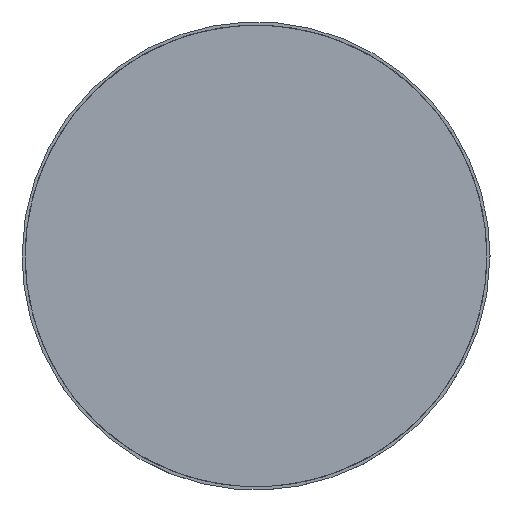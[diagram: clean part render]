
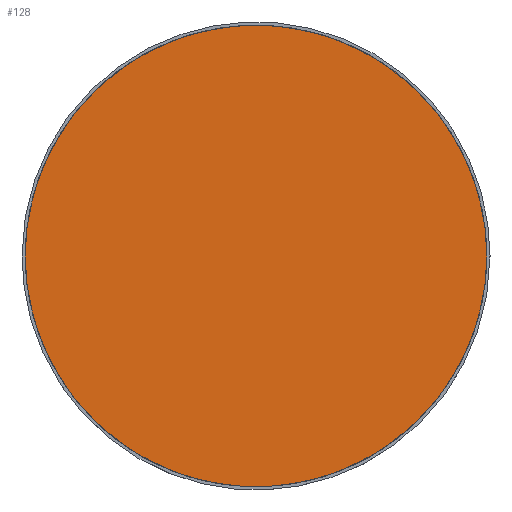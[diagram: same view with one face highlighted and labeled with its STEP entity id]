
A CAD part, top view. The second image highlights one B-rep face of the part: STEP entity #128.
In plain terms, the highlighted planar face has unit normal (0, 0, 1).
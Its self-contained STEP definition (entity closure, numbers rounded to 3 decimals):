
#128=ADVANCED_FACE('',(#202),#981,.T.);
#202=FACE_OUTER_BOUND('',#278,.T.);
#278=EDGE_LOOP('',(#373,#374));
#373=ORIENTED_EDGE('',*,*,#669,.F.);
#374=ORIENTED_EDGE('',*,*,#665,.F.);
#665=EDGE_CURVE('',#889,#891,#819,.T.);
#669=EDGE_CURVE('',#891,#889,#823,.T.);
#819=(
BOUNDED_CURVE()
B_SPLINE_CURVE(2,(#1253,#1254,#1255,#1256,#1257),.UNSPECIFIED.,.F.,.F.)
B_SPLINE_CURVE_WITH_KNOTS((3,2,3),(-1382.301,-1036.726,
-691.15),.UNSPECIFIED.)
CURVE()
GEOMETRIC_REPRESENTATION_ITEM()
RATIONAL_B_SPLINE_CURVE((1.,0.707,1.,0.707,1.))
REPRESENTATION_ITEM('')
);
#823=(
BOUNDED_CURVE()
B_SPLINE_CURVE(2,(#1267,#1268,#1269,#1270,#1271),.UNSPECIFIED.,.F.,.F.)
B_SPLINE_CURVE_WITH_KNOTS((3,2,3),(-691.15,-345.575,
0.),.UNSPECIFIED.)
CURVE()
GEOMETRIC_REPRESENTATION_ITEM()
RATIONAL_B_SPLINE_CURVE((1.,0.707,1.,0.707,1.))
REPRESENTATION_ITEM('')
);
#889=VERTEX_POINT('',#1249);
#891=VERTEX_POINT('',#1251);
#981=PLANE('',#1073);
#1073=AXIS2_PLACEMENT_3D('',#1237,#1102,$);
#1102=DIRECTION('',(0.,0.,1.));
#1237=CARTESIAN_POINT('',(277.5,-277.5,500.));
#1249=CARTESIAN_POINT('',(222.,0.,500.));
#1251=CARTESIAN_POINT('',(-222.,0.,500.));
#1253=CARTESIAN_POINT('',(222.,0.,500.));
#1254=CARTESIAN_POINT('',(222.,-222.,500.));
#1255=CARTESIAN_POINT('',(0.,-222.,500.));
#1256=CARTESIAN_POINT('',(-222.,-222.,500.));
#1257=CARTESIAN_POINT('',(-222.,0.,500.));
#1267=CARTESIAN_POINT('',(-222.,0.,500.));
#1268=CARTESIAN_POINT('',(-222.,222.,500.));
#1269=CARTESIAN_POINT('',(0.,222.,500.));
#1270=CARTESIAN_POINT('',(222.,222.,500.));
#1271=CARTESIAN_POINT('',(222.,0.,500.));
